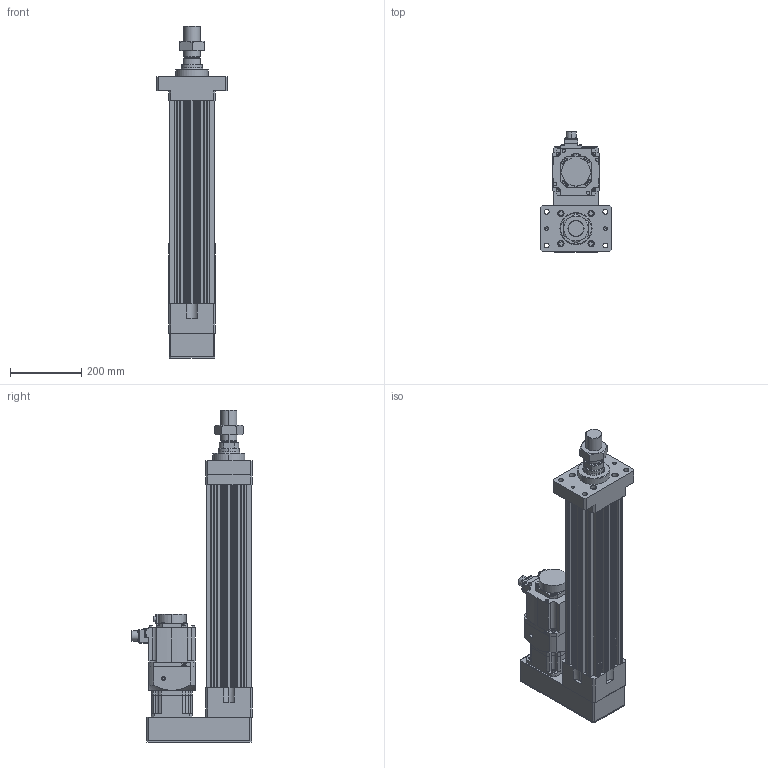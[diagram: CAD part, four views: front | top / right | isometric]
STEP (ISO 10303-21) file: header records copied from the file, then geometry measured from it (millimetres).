
FILE_DESCRIPTION (( 'STEP AP203' ), '1' );
FILE_NAME ('HES130NS(FS)(HS)-P350-W015G00-M-FMA.STEP', '2023-01-29T04:41:09', ( 'tms' ), ( '' ), 'SwSTEP 2.0', 'SolidWorks 2013', '' );
FILE_SCHEMA (( 'CONFIG_CONTROL_DESIGN' ));
Length unit declared in the file: millimetre
Products named in the file (8): HES130 ROD M ST350; HES130NS(FS)(HS)-P350-W015G00-M-FMA; P0401400706; AB1151; AB115-003[HG-SR152]; HG-SR152; HES130-P350-G120-FMA; M45X1.5P
Assembly tree (7 placements, depth 3):
  HES130NS(FS)(HS)-P350-W015G00-M-FMA
    HES130-P350-G120-FMA
    HES130 ROD M ST350
    M45X1.5P
    AB115-003[HG-SR152]
      AB1151
      P0401400706
    HG-SR152
Bounding box: 200 x 337.49 x 932 mm (x, y, z)
Volume: 11239226.2 mm3; surface area: 1307851.9 mm2
Topology: 4 solids, 11 shells, 1082 faces, 2768 edges, 1799 vertices
Faces by surface type: cylinder 513, plane 489, cone 68, bspline 8, torus 4
Entity records: 34626 total; most frequent: CARTESIAN_POINT 6632, DIRECTION 5993, ORIENTED_EDGE 5484, EDGE_CURVE 2752, AXIS2_PLACEMENT_3D 2228, VERTEX_POINT 1799, VECTOR 1537, LINE 1537
